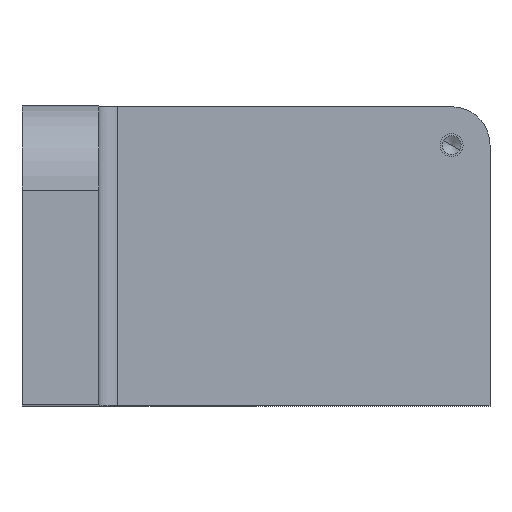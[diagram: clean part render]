
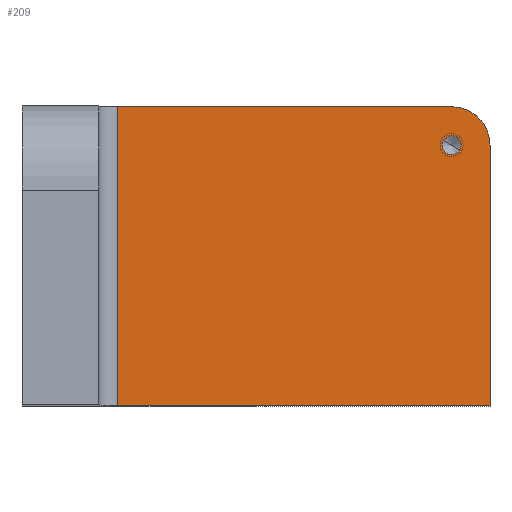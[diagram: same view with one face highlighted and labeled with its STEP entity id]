
A CAD part, top view. The second image highlights one B-rep face of the part: STEP entity #209.
In plain terms, the highlighted planar face has unit normal (0, 0, 1).
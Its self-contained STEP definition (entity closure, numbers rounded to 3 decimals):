
#144=CARTESIAN_POINT('Axis2P3D Location',(0.,0.,20.)) ;
#149=CARTESIAN_POINT('Line Origine',(73.5,0.,20.)) ;
#153=CARTESIAN_POINT('Vertex',(25.,0.,20.)) ;
#155=CARTESIAN_POINT('Vertex',(122.,0.,20.)) ;
#158=CARTESIAN_POINT('Line Origine',(122.,34.,20.)) ;
#162=CARTESIAN_POINT('Vertex',(122.,68.,20.)) ;
#165=CARTESIAN_POINT('Axis2P3D Location',(112.,68.,20.)) ;
#169=CARTESIAN_POINT('Vertex',(112.,78.,20.)) ;
#172=CARTESIAN_POINT('Line Origine',(68.5,78.,20.)) ;
#176=CARTESIAN_POINT('Vertex',(25.,78.,20.)) ;
#179=CARTESIAN_POINT('Line Origine',(25.,39.,20.)) ;
#191=CARTESIAN_POINT('Axis2P3D Location',(112.,68.,20.)) ;
#195=CARTESIAN_POINT('Vertex',(109.842,69.179,20.)) ;
#197=CARTESIAN_POINT('Vertex',(114.158,66.821,20.)) ;
#200=CARTESIAN_POINT('Axis2P3D Location',(112.,68.,20.)) ;
#145=DIRECTION('Axis2P3D Direction',(0.,0.,1.)) ;
#146=DIRECTION('Axis2P3D XDirection',(1.,0.,0.)) ;
#150=DIRECTION('Vector Direction',(1.,0.,0.)) ;
#159=DIRECTION('Vector Direction',(0.,1.,0.)) ;
#166=DIRECTION('Axis2P3D Direction',(0.,0.,1.)) ;
#173=DIRECTION('Vector Direction',(-1.,0.,0.)) ;
#180=DIRECTION('Vector Direction',(0.,-1.,0.)) ;
#192=DIRECTION('Axis2P3D Direction',(0.,0.,1.)) ;
#201=DIRECTION('Axis2P3D Direction',(0.,0.,1.)) ;
#147=AXIS2_PLACEMENT_3D('Plane Axis2P3D',#144,#145,#146) ;
#167=AXIS2_PLACEMENT_3D('Circle Axis2P3D',#165,#166,$) ;
#193=AXIS2_PLACEMENT_3D('Circle Axis2P3D',#191,#192,$) ;
#202=AXIS2_PLACEMENT_3D('Circle Axis2P3D',#200,#201,$) ;
#185=ORIENTED_EDGE('',*,*,#157,.T.) ;
#186=ORIENTED_EDGE('',*,*,#164,.T.) ;
#187=ORIENTED_EDGE('',*,*,#171,.T.) ;
#188=ORIENTED_EDGE('',*,*,#178,.T.) ;
#189=ORIENTED_EDGE('',*,*,#183,.F.) ;
#206=ORIENTED_EDGE('',*,*,#199,.F.) ;
#207=ORIENTED_EDGE('',*,*,#204,.F.) ;
#208=FACE_BOUND('',#205,.T.) ;
#151=VECTOR('Line Direction',#150,1.) ;
#160=VECTOR('Line Direction',#159,1.) ;
#174=VECTOR('Line Direction',#173,1.) ;
#181=VECTOR('Line Direction',#180,1.) ;
#209=ADVANCED_FACE('PartBody',(#190,#208),#148,.T.) ;
#168=CIRCLE('generated circle',#167,10.) ;
#194=CIRCLE('generated circle',#193,2.459) ;
#203=CIRCLE('generated circle',#202,2.459) ;
#157=EDGE_CURVE('',#154,#156,#152,.T.) ;
#164=EDGE_CURVE('',#156,#163,#161,.T.) ;
#171=EDGE_CURVE('',#163,#170,#168,.T.) ;
#178=EDGE_CURVE('',#170,#177,#175,.T.) ;
#183=EDGE_CURVE('',#154,#177,#182,.F.) ;
#199=EDGE_CURVE('',#196,#198,#194,.T.) ;
#204=EDGE_CURVE('',#198,#196,#203,.T.) ;
#184=EDGE_LOOP('',(#185,#186,#187,#188,#189)) ;
#205=EDGE_LOOP('',(#206,#207)) ;
#190=FACE_OUTER_BOUND('',#184,.T.) ;
#152=LINE('Line',#149,#151) ;
#161=LINE('Line',#158,#160) ;
#175=LINE('Line',#172,#174) ;
#182=LINE('Line',#179,#181) ;
#148=PLANE('',#147) ;
#154=VERTEX_POINT('',#153) ;
#156=VERTEX_POINT('',#155) ;
#163=VERTEX_POINT('',#162) ;
#170=VERTEX_POINT('',#169) ;
#177=VERTEX_POINT('',#176) ;
#196=VERTEX_POINT('',#195) ;
#198=VERTEX_POINT('',#197) ;
